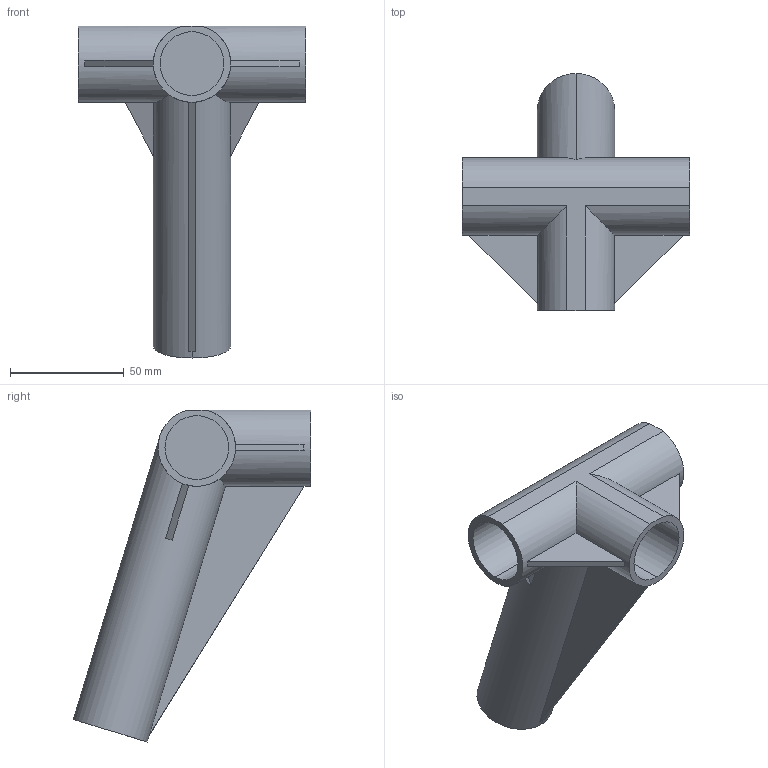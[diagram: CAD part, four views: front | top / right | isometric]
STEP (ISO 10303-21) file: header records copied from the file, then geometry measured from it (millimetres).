
FILE_DESCRIPTION (( 'STEP AP214' ), '1' );
FILE_NAME ('PJ-406.STEP', '2023-09-12T11:11:47', ( 'catia' ), ( 'HP Inc.' ), 'SwSTEP 2.0', 'SolidWorks 2021', '' );
FILE_SCHEMA (( 'AUTOMOTIVE_DESIGN' ));
Length unit declared in the file: millimetre
Products named in the file (1): PJ-406
Bounding box: 100 x 104.27 x 145.79 mm (x, y, z)
Volume: 162719 mm3; surface area: 45408.5 mm2
Topology: 1 solids, 1 shells, 37 faces, 93 edges, 62 vertices
Faces by surface type: plane 24, cylinder 13
Entity records: 1143 total; most frequent: CARTESIAN_POINT 259, ORIENTED_EDGE 186, DIRECTION 169, EDGE_CURVE 93, VERTEX_POINT 62, AXIS2_PLACEMENT_3D 60, VECTOR 49, LINE 49
